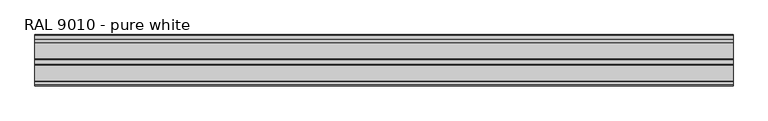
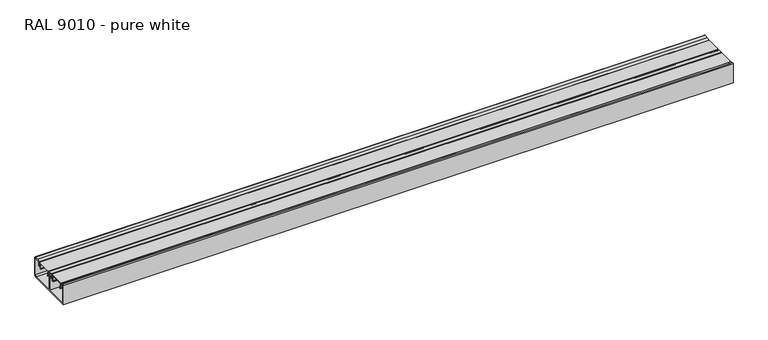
"""IFC4 building model written with IfcOpenShell, lengths in millimetres: proxy geometry, Electrical_Installations_Hager_GBD-Flat-Lid-End-Cap : RAL 9010 - pure white."""

from ifc_helpers import new_model, si_unit, point, frame, frame_2d, origin, place, context, project, spatial, polyline, circle_curve, trimmed, segment, composite_curve, outline, extrude, source, transform, mapped, element, save


def ral_9010_pure_white_86e4e6ea(model_context):
    return source(origin(), model_context, "Body", "SweptSolid", [
        extrude(outline(composite_curve([segment(polyline([(-64.6976563, 54.0894343), (-64.6976563, 2.0), (-2.2476563, 2.0), (-2.2476563, 38.3324137), (-0.2476563, 49.6749773), (-0.2476563, 52.0), (-9.8476563, 52.0), (-9.8476563, 41.5012147), (-14.5382813, 41.5012147), (-14.5382813, 45.748101), (-13.5382813, 45.748101), (-13.5382813, 42.9887147), (-11.6476563, 42.9887147), (-11.6476563, 53.0031102)]), True, "CONTINUOUS"), segment(trimmed(circle_curve(frame_2d((-10.6507665, 53.0031102)), 0.9968898), [point((-11.6476563, 53.0031102))], [point((-10.6507665, 54.0))], False, "CARTESIAN"), True, "CONTINUOUS"), segment(polyline([(-10.6507665, 54.0), (0.7441474, 54.0)]), True, "CONTINUOUS"), segment(trimmed(circle_curve(frame_2d((0.7441474, 52.9918037)), 1.0081963), [point((0.7441474, 54.0))], [point((1.7523437, 52.9918037))], False, "CARTESIAN"), True, "CONTINUOUS"), segment(polyline([(1.7523437, 52.9918037), (1.7523437, 49.5), (0.6591165, 43.3), (3.2523437, 43.3), (3.2523437, 45.7537431), (4.2523437, 45.7537431), (4.2523437, 41.5), (0.3417279, 41.5), (-0.2476563, 38.1574364), (-0.2476563, 2.0), (60.5496526, 2.0), (64.5023437, 5.9526912), (64.5023437, 54.2), (54.8614746, 54.2), (48.5523437, 52.1500391), (48.5523437, 41.5), (44.2523437, 41.5), (44.2523437, 45.7556921), (45.2523437, 45.7556921), (45.2523437, 42.9887147), (46.7523437, 42.9887147), (46.7523437, 53.9835468), (54.4971904, 56.5), (64.8989144, 56.5)]), True, "CONTINUOUS"), segment(trimmed(circle_curve(frame_2d((64.8989144, 54.5965707)), 1.9034293), [point((64.8989144, 56.5))], [point((66.8023437, 54.5965707))], False, "CARTESIAN"), True, "CONTINUOUS"), segment(polyline([(66.8023437, 54.5965707), (66.8023437, 5.0), (61.8023437, 0.0), (-66.9976563, 0.0), (-66.9976563, 54.4045249)]), True, "CONTINUOUS"), segment(trimmed(circle_curve(frame_2d((-64.9278927, 54.4045249)), 2.0697636), [point((-66.9976563, 54.4045249))], [point((-64.2989994, 56.3764312))], False, "CARTESIAN"), True, "CONTINUOUS"), segment(polyline([(-64.2989994, 56.3764312), (-56.8429688, 53.998505), (-56.8429688, 42.9887147), (-54.6789063, 42.9887147), (-54.6789063, 45.7565885), (-53.6789063, 45.7565885), (-53.6789063, 41.5012147), (-58.4476563, 41.5012147), (-58.4476563, 52.0961433), (-64.6976563, 54.0894343)]), True, "CONTINUOUS")], self_intersect=False)), frame((0.0, 0.0, 0.0), z_axis=(1.0, 0.0, 0.0), x_axis=(0.0, 1.0, 0.0)), (0.0, 0.0, 1.0), 1819.466081),
        extrude(outline(composite_curve([segment(polyline([(-13.1613464, 52.5816445), (-55.0613464, 52.5816445), (-55.0613464, 49.2816445), (-53.7229555, 49.2816445)]), True, "CONTINUOUS"), segment(trimmed(circle_curve(frame_2d((-53.7229555, 47.1700354)), 2.1116091), [point((-53.7229555, 49.2816445))], [point((-51.6113464, 47.1700354))], False, "CARTESIAN"), True, "CONTINUOUS"), segment(polyline([(-51.6113464, 47.1700354), (-51.6113464, 37.6816445), (-49.7113464, 37.6816445), (-49.7113464, 36.8816445), (-52.6113464, 36.8816445), (-52.6113464, 47.3262929)]), True, "CONTINUOUS"), segment(trimmed(circle_curve(frame_2d((-53.566698, 47.3262929)), 0.9553516), [point((-52.6113464, 47.3262929))], [point((-53.566698, 48.2816445))], True, "CARTESIAN"), True, "CONTINUOUS"), segment(polyline([(-53.566698, 48.2816445), (-55.3644879, 48.2816445), (-55.3644879, 43.8012242), (-56.3660339, 43.8012242), (-56.3660339, 53.0900381)]), True, "CONTINUOUS"), segment(trimmed(circle_curve(frame_2d((-55.456072, 53.0900381)), 0.9099619), [point((-56.3660339, 53.0900381))], [point((-55.456072, 54.0))], False, "CARTESIAN"), True, "CONTINUOUS"), segment(polyline([(-55.456072, 54.0), (-12.9820268, 54.0)]), True, "CONTINUOUS"), segment(trimmed(circle_curve(frame_2d((-12.9820268, 52.9918196)), 1.0081804), [point((-12.9820268, 54.0))], [point((-11.9738464, 52.9918196))], False, "CARTESIAN"), True, "CONTINUOUS"), segment(polyline([(-11.9738464, 52.9918196), (-11.9738464, 43.8012242), (-12.858205, 43.8012242), (-12.858205, 48.2816445), (-14.6025892, 48.2816445)]), True, "CONTINUOUS"), segment(trimmed(circle_curve(frame_2d((-14.6025892, 47.2728873)), 1.0087572), [point((-14.6025892, 48.2816445))], [point((-15.6113464, 47.2728873))], True, "CARTESIAN"), True, "CONTINUOUS"), segment(polyline([(-15.6113464, 47.2728873), (-15.6113464, 36.8816445), (-18.5113464, 36.8816445), (-18.5113464, 37.6816445), (-16.6113464, 37.6816445), (-16.6113464, 47.3197896)]), True, "CONTINUOUS"), segment(trimmed(circle_curve(frame_2d((-14.6494915, 47.3197896)), 1.9618549), [point((-16.6113464, 47.3197896))], [point((-14.6494915, 49.2816445))], False, "CARTESIAN"), True, "CONTINUOUS"), segment(polyline([(-14.6494915, 49.2816445), (-13.1613464, 49.2816445), (-13.1613464, 52.5816445)]), True, "CONTINUOUS")], self_intersect=False)), frame((0.0, 0.0, 0.0), z_axis=(1.0, 0.0, 0.0), x_axis=(0.0, 1.0, 0.0)), (0.0, 0.0, 1.0), 1819.466081),
        extrude(outline(composite_curve([segment(polyline([(45.1923672, 52.5816445), (3.2923672, 52.5816445), (3.2923672, 49.2816445), (4.6307581, 49.2816445)]), True, "CONTINUOUS"), segment(trimmed(circle_curve(frame_2d((4.6307581, 47.1700354)), 2.1116091), [point((4.6307581, 49.2816445))], [point((6.7423672, 47.1700354))], False, "CARTESIAN"), True, "CONTINUOUS"), segment(polyline([(6.7423672, 47.1700354), (6.7423672, 37.6816445), (8.6423672, 37.6816445), (8.6423672, 36.8816445), (5.7423672, 36.8816445), (5.7423672, 47.3262929)]), True, "CONTINUOUS"), segment(trimmed(circle_curve(frame_2d((4.7870156, 47.3262929)), 0.9553516), [point((5.7423672, 47.3262929))], [point((4.7870156, 48.2816445))], True, "CARTESIAN"), True, "CONTINUOUS"), segment(polyline([(4.7870156, 48.2816445), (2.9892258, 48.2816445), (2.9892258, 43.8231023), (1.9876797, 43.8231023), (1.9876797, 53.0900381)]), True, "CONTINUOUS"), segment(trimmed(circle_curve(frame_2d((2.8976417, 53.0900381)), 0.9099619), [point((1.9876797, 53.0900381))], [point((2.8976417, 54.0))], False, "CARTESIAN"), True, "CONTINUOUS"), segment(polyline([(2.8976417, 54.0), (45.3716869, 54.0)]), True, "CONTINUOUS"), segment(trimmed(circle_curve(frame_2d((45.3716869, 52.9918196)), 1.0081804), [point((45.3716869, 54.0))], [point((46.3798672, 52.9918196))], False, "CARTESIAN"), True, "CONTINUOUS"), segment(polyline([(46.3798672, 52.9918196), (46.3798672, 43.9733035), (45.4955087, 43.9733035), (45.4955087, 48.2816445), (43.7511244, 48.2816445)]), True, "CONTINUOUS"), segment(trimmed(circle_curve(frame_2d((43.7511244, 47.2728873)), 1.0087572), [point((43.7511244, 48.2816445))], [point((42.7423672, 47.2728873))], True, "CARTESIAN"), True, "CONTINUOUS"), segment(polyline([(42.7423672, 47.2728873), (42.7423672, 36.8816445), (39.8423672, 36.8816445), (39.8423672, 37.6816445), (41.7423672, 37.6816445), (41.7423672, 47.3197896)]), True, "CONTINUOUS"), segment(trimmed(circle_curve(frame_2d((43.7042221, 47.3197896)), 1.9618549), [point((41.7423672, 47.3197896))], [point((43.7042221, 49.2816445))], False, "CARTESIAN"), True, "CONTINUOUS"), segment(polyline([(43.7042221, 49.2816445), (45.1923672, 49.2816445), (45.1923672, 52.5816445)]), True, "CONTINUOUS")], self_intersect=False)), frame((0.0, 0.0, 0.0), z_axis=(1.0, 0.0, 0.0), x_axis=(0.0, 1.0, 0.0)), (0.0, 0.0, 1.0), 1819.466081),
    ])


if __name__ == "__main__":
    model = new_model("IFC4")
    model_context = context("Model", 3, world=origin())
    ifc_project = project(units=[si_unit("LENGTHUNIT", "METRE", prefix="MILLI")], contexts=[model_context])
    site = spatial("IfcSite", under=ifc_project)
    building = spatial("IfcBuilding", under=site)
    placement = place(None, origin())
    ral_9010_pure_white_shape = ral_9010_pure_white_86e4e6ea(model_context)
    element("IfcBuildingElementProxy", 1, Name="Electrical_Installations_Hager_GBD-Flat-Lid-End-Cap : RAL 9010 - pure white", ObjectType="Electrical_Installations_Hager_GBD-Flat-Lid-End-Cap : RAL 9010 - pure white", at=placement, inside=building, context=model_context, shape_type="MappedRepresentation", body=[
        mapped(ral_9010_pure_white_shape, transform((0.0, 0.0, 0.0), x_axis=(1.0, 0.0, 0.0), y_axis=(0.0, 1.0, 0.0), z_axis=(0.0, 0.0, 1.0))),
    ])
    save(model, "model.ifc")
